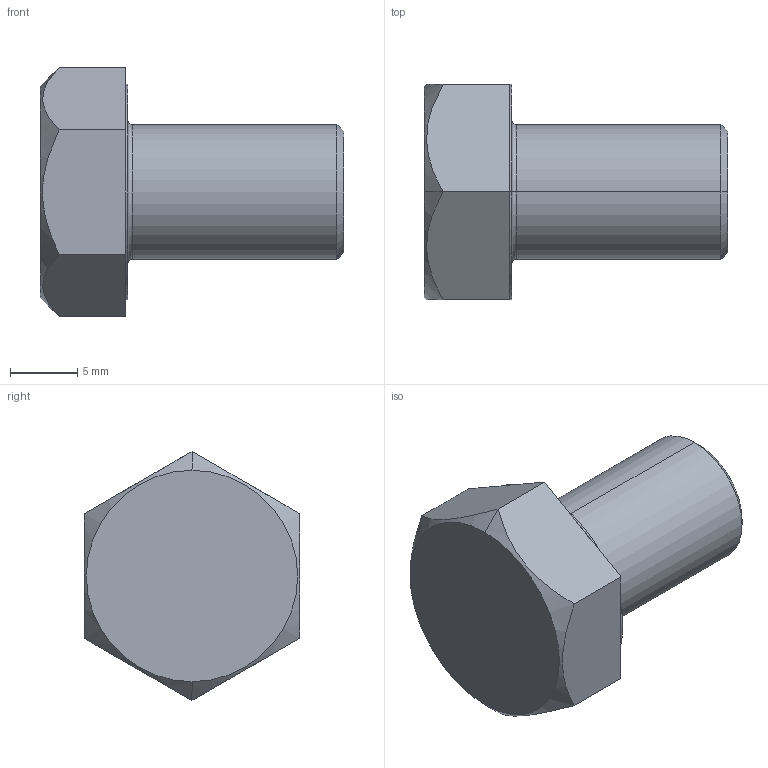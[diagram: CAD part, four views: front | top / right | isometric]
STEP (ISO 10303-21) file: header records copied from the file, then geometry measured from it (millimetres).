
FILE_DESCRIPTION (( 'STEP AP203' ), '1' );
FILE_NAME ('LGN-TD-M10x16.STEP', '2026-08-14T04:38:35', ( '' ), ( '' ), 'SwSTEP 2.0', 'SolidWorks 2020', '' );
FILE_SCHEMA (( 'CONFIG_CONTROL_DESIGN' ));
Length unit declared in the file: millimetre
Products named in the file (1): LGN-TD-M10x16
Bounding box: 22.5 x 16 x 18.48 mm (x, y, z)
Volume: 2678.7 mm3; surface area: 1271.1 mm2
Topology: 1 solids, 1 shells, 25 faces, 54 edges, 32 vertices
Faces by surface type: plane 15, cone 4, cylinder 4, torus 2
Entity records: 811 total; most frequent: CARTESIAN_POINT 184, DIRECTION 122, ORIENTED_EDGE 108, EDGE_CURVE 54, AXIS2_PLACEMENT_3D 48, VERTEX_POINT 32, LINE 26, VECTOR 26
